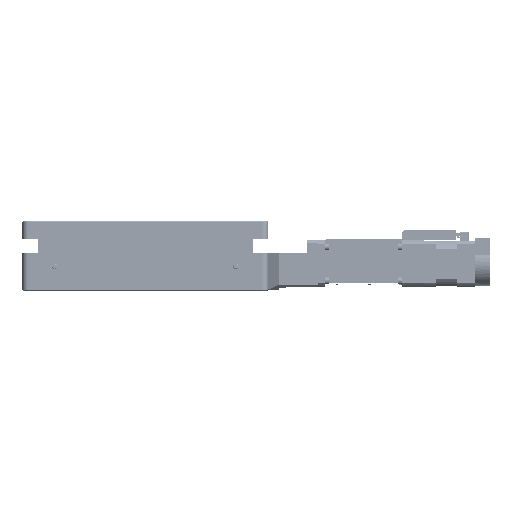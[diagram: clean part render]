
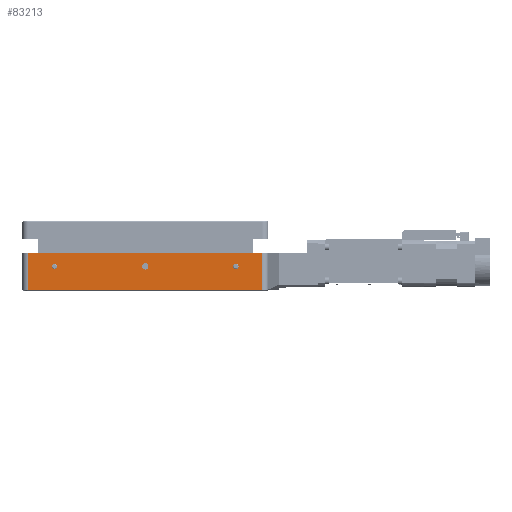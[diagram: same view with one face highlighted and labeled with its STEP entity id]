
A CAD part, left-side view. The second image highlights one B-rep face of the part: STEP entity #83213.
In plain terms, the highlighted planar face has unit normal (-1, 0, 0).
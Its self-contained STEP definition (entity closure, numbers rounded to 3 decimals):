
#2819=FACE_BOUND('',#15154,.T.);
#2820=FACE_BOUND('',#15155,.T.);
#2821=FACE_BOUND('',#15156,.T.);
#6056=PLANE('',#88710);
#10082=FACE_OUTER_BOUND('',#15153,.T.);
#15153=EDGE_LOOP('',(#72697,#72698,#72699,#72700));
#15154=EDGE_LOOP('',(#72701));
#15155=EDGE_LOOP('',(#72702));
#15156=EDGE_LOOP('',(#72703));
#18129=CIRCLE('',#88612,2.067);
#18175=CIRCLE('',#88711,2.067);
#18176=CIRCLE('',#88712,2.459);
#25363=LINE('',#141820,#33055);
#25580=LINE('',#143132,#33272);
#25582=LINE('',#143136,#33274);
#25583=LINE('',#143137,#33275);
#33055=VECTOR('',#104438,10.);
#33272=VECTOR('',#105241,10.);
#33274=VECTOR('',#105245,10.);
#33275=VECTOR('',#105246,10.);
#40624=VERTEX_POINT('',#141817);
#40625=VERTEX_POINT('',#141819);
#40820=VERTEX_POINT('',#142873);
#40898=VERTEX_POINT('',#143129);
#40900=VERTEX_POINT('',#143135);
#40901=VERTEX_POINT('',#143138);
#40902=VERTEX_POINT('',#143140);
#51547=EDGE_CURVE('',#40624,#40625,#25363,.T.);
#51816=EDGE_CURVE('',#40820,#40820,#18129,.T.);
#51943=EDGE_CURVE('',#40898,#40624,#25580,.T.);
#51945=EDGE_CURVE('',#40900,#40898,#25582,.T.);
#51946=EDGE_CURVE('',#40625,#40900,#25583,.T.);
#51947=EDGE_CURVE('',#40901,#40901,#18175,.T.);
#51948=EDGE_CURVE('',#40902,#40902,#18176,.T.);
#72697=ORIENTED_EDGE('',*,*,#51945,.F.);
#72698=ORIENTED_EDGE('',*,*,#51946,.F.);
#72699=ORIENTED_EDGE('',*,*,#51547,.F.);
#72700=ORIENTED_EDGE('',*,*,#51943,.F.);
#72701=ORIENTED_EDGE('',*,*,#51816,.T.);
#72702=ORIENTED_EDGE('',*,*,#51947,.T.);
#72703=ORIENTED_EDGE('',*,*,#51948,.T.);
#83213=ADVANCED_FACE('',(#10082,#2819,#2820,#2821),#6056,.T.);
#88612=AXIS2_PLACEMENT_3D('',#142874,#104964,#104965);
#88710=AXIS2_PLACEMENT_3D('',#143134,#105243,#105244);
#88711=AXIS2_PLACEMENT_3D('',#143139,#105247,#105248);
#88712=AXIS2_PLACEMENT_3D('',#143141,#105249,#105250);
#104438=DIRECTION('',(0.,-1.,0.));
#104964=DIRECTION('center_axis',(1.,0.,0.));
#104965=DIRECTION('ref_axis',(0.,0.,
1.));
#105241=DIRECTION('',(0.,0.,1.));
#105243=DIRECTION('center_axis',(-1.,0.,0.));
#105244=DIRECTION('ref_axis',(0.,-1.,0.));
#105245=DIRECTION('',(0.,1.,0.));
#105246=DIRECTION('',(0.,0.,-1.));
#105247=DIRECTION('center_axis',(1.,0.,0.));
#105248=DIRECTION('ref_axis',(0.,0.,
1.));
#105249=DIRECTION('center_axis',(1.,0.,0.));
#105250=DIRECTION('ref_axis',(0.,0.,
1.));
#141817=CARTESIAN_POINT('',(-125.,90.,14.5));
#141819=CARTESIAN_POINT('',(-125.,-90.,14.5));
#141820=CARTESIAN_POINT('',(-125.,95.,14.5));
#142873=CARTESIAN_POINT('',(-125.,70.,2.433));
#142874=CARTESIAN_POINT('Origin',(-125.,70.,4.5));
#143129=CARTESIAN_POINT('',(-125.,90.,-13.5));
#143132=CARTESIAN_POINT('',(-125.,90.,0.));
#143134=CARTESIAN_POINT('Origin',(-125.,95.,0.));
#143135=CARTESIAN_POINT('',(-125.,-90.,-13.5));
#143136=CARTESIAN_POINT('',(-125.,47.5,-13.5));
#143137=CARTESIAN_POINT('',(-125.,-90.,0.));
#143138=CARTESIAN_POINT('',(-125.,-70.,2.433));
#143139=CARTESIAN_POINT('Origin',(-125.,-70.,4.5));
#143140=CARTESIAN_POINT('',(-125.,0.,2.042));
#143141=CARTESIAN_POINT('Origin',(-125.,0.,4.5));
